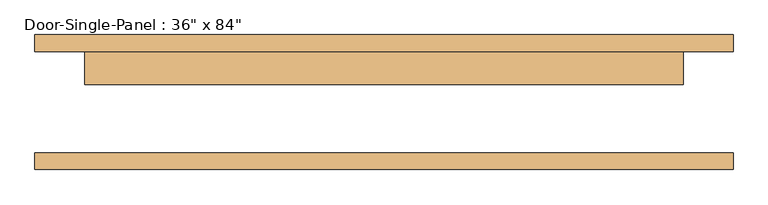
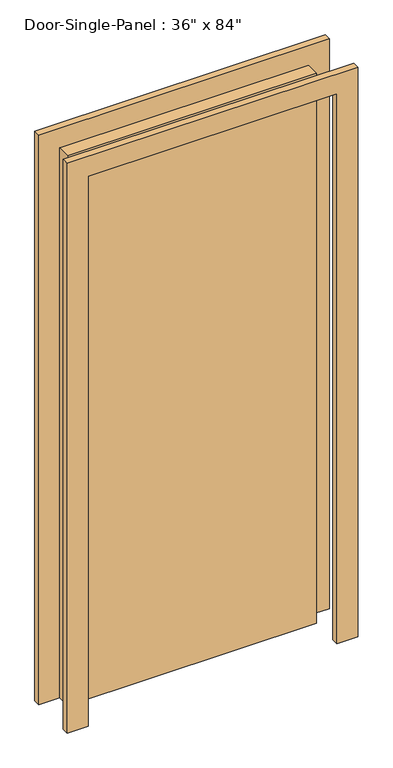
"""IFC4 building model written with IfcOpenShell, lengths in millimetres: door geometry."""

from ifc_helpers import new_model, si_unit, frame, origin, origin_with_axes, place, context, project, spatial, polyline, outline, extrude, source, transform, mapped, element, save


def door_9d26d547(model_context):
    return source(origin(), model_context, "Body", "SweptSolid", [
        extrude(outline(polyline([(457.2, 26.9875), (-457.2, 26.9875), (-457.2, 77.7875), (457.2, 77.7875), (457.2, 26.9875)])), origin_with_axes(), (0.0, 0.0, 1.0), 2133.6),
        extrude(outline(polyline([(2209.8, -533.4), (0.0, -533.4), (0.0, -457.2), (2133.6, -457.2), (2133.6, 457.2), (0.0, 457.2), (0.0, 533.4), (2209.8, 533.4), (2209.8, -533.4)])), frame((0.0, 77.7875, 0.0), z_axis=(0.0, 1.0, 0.0), x_axis=(0.0, 0.0, 1.0)), (0.0, 0.0, 1.0), 25.4),
        extrude(outline(polyline([(2209.8, 533.4), (2209.8, -533.4), (0.0, -533.4), (0.0, -457.2), (2133.6, -457.2), (2133.6, 457.2), (0.0, 457.2), (0.0, 533.4), (2209.8, 533.4)])), frame((0.0, -103.1875, 0.0), z_axis=(0.0, 1.0, 0.0), x_axis=(0.0, 0.0, 1.0)), (0.0, 0.0, 1.0), 25.4),
    ])


if __name__ == "__main__":
    model = new_model("IFC4")
    model_context = context("Model", 3, world=origin())
    ifc_project = project(units=[si_unit("LENGTHUNIT", "METRE", prefix="MILLI")], contexts=[model_context])
    site = spatial("IfcSite", under=ifc_project)
    building = spatial("IfcBuilding", under=site)
    placement = place(None, origin())
    door_shape = door_9d26d547(model_context)
    element("IfcDoor", 1, ObjectType="Door-Single-Panel : 36\" x 84\"", at=placement, inside=building, context=model_context, shape_type="MappedRepresentation", body=[
        mapped(door_shape, transform((0.0, 0.0, 0.0), x_axis=(1.0, 0.0, 0.0), y_axis=(0.0, 1.0, 0.0), z_axis=(0.0, 0.0, 1.0))),
    ])
    save(model, "model.ifc")
